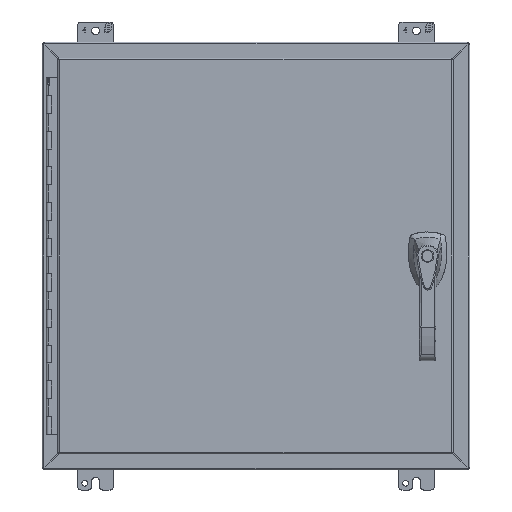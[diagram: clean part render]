
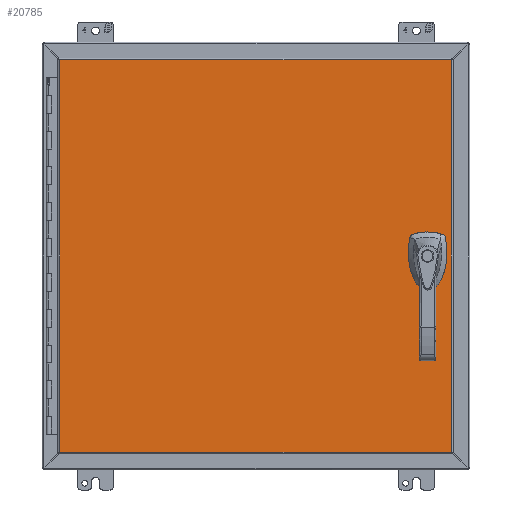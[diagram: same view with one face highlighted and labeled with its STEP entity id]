
A CAD part, front view. The second image highlights one B-rep face of the part: STEP entity #20785.
In plain terms, the highlighted planar face has unit normal (0, -1, 0).
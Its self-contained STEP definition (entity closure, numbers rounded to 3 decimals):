
#2318=CIRCLE('',#22225,4.242);
#2319=CIRCLE('',#22226,11.24);
#2320=CIRCLE('',#22227,11.24);
#2321=CIRCLE('',#22228,11.24);
#2322=CIRCLE('',#22229,11.24);
#4424=ORIENTED_EDGE('',*,*,#9436,.T.);
#4425=ORIENTED_EDGE('',*,*,#9437,.T.);
#4426=ORIENTED_EDGE('',*,*,#9438,.T.);
#4427=ORIENTED_EDGE('',*,*,#9439,.T.);
#4428=ORIENTED_EDGE('',*,*,#9440,.T.);
#4429=ORIENTED_EDGE('',*,*,#9441,.T.);
#4430=ORIENTED_EDGE('',*,*,#9442,.T.);
#4431=ORIENTED_EDGE('',*,*,#9443,.T.);
#4432=ORIENTED_EDGE('',*,*,#9444,.T.);
#4433=ORIENTED_EDGE('',*,*,#9445,.T.);
#4434=ORIENTED_EDGE('',*,*,#9446,.T.);
#4435=ORIENTED_EDGE('',*,*,#9447,.T.);
#4436=ORIENTED_EDGE('',*,*,#9448,.T.);
#9436=EDGE_CURVE('',#12055,#12055,#2318,.T.);
#9437=EDGE_CURVE('',#12056,#12057,#13993,.T.);
#9438=EDGE_CURVE('',#12057,#12058,#13994,.T.);
#9439=EDGE_CURVE('',#12058,#12059,#13995,.T.);
#9440=EDGE_CURVE('',#12059,#12056,#13996,.T.);
#9441=EDGE_CURVE('',#12060,#12061,#13997,.T.);
#9442=EDGE_CURVE('',#12061,#12062,#2319,.T.);
#9443=EDGE_CURVE('',#12062,#12063,#13998,.T.);
#9444=EDGE_CURVE('',#12063,#12064,#2320,.T.);
#9445=EDGE_CURVE('',#12064,#12065,#13999,.T.);
#9446=EDGE_CURVE('',#12065,#12066,#2321,.T.);
#9447=EDGE_CURVE('',#12066,#12067,#14000,.T.);
#9448=EDGE_CURVE('',#12067,#12060,#2322,.T.);
#12055=VERTEX_POINT('',#31715);
#12056=VERTEX_POINT('',#31717);
#12057=VERTEX_POINT('',#31718);
#12058=VERTEX_POINT('',#31720);
#12059=VERTEX_POINT('',#31722);
#12060=VERTEX_POINT('',#31725);
#12061=VERTEX_POINT('',#31726);
#12062=VERTEX_POINT('',#31728);
#12063=VERTEX_POINT('',#31730);
#12064=VERTEX_POINT('',#31732);
#12065=VERTEX_POINT('',#31734);
#12066=VERTEX_POINT('',#31736);
#12067=VERTEX_POINT('',#31738);
#13993=LINE('',#31716,#15826);
#13994=LINE('',#31719,#15827);
#13995=LINE('',#31721,#15828);
#13996=LINE('',#31723,#15829);
#13997=LINE('',#31724,#15830);
#13998=LINE('',#31729,#15831);
#13999=LINE('',#31733,#15832);
#14000=LINE('',#31737,#15833);
#15826=VECTOR('',#24899,1000.);
#15827=VECTOR('',#24900,1000.);
#15828=VECTOR('',#24901,1000.);
#15829=VECTOR('',#24902,1000.);
#15830=VECTOR('',#24903,1000.);
#15831=VECTOR('',#24906,1000.);
#15832=VECTOR('',#24909,1000.);
#15833=VECTOR('',#24912,1000.);
#17476=EDGE_LOOP('',(#4424));
#17477=EDGE_LOOP('',(#4425,#4426,#4427,#4428));
#17478=EDGE_LOOP('',(#4429,#4430,#4431,#4432,#4433,#4434,#4435,#4436));
#18804=FACE_BOUND('',#17476,.T.);
#18805=FACE_BOUND('',#17477,.T.);
#18806=FACE_BOUND('',#17478,.T.);
#19972=PLANE('',#22224);
#20785=ADVANCED_FACE('',(#18804,#18805,#18806),#19972,.T.);
#22224=AXIS2_PLACEMENT_3D('',#31713,#24895,#24896);
#22225=AXIS2_PLACEMENT_3D('',#31714,#24897,#24898);
#22226=AXIS2_PLACEMENT_3D('',#31727,#24904,#24905);
#22227=AXIS2_PLACEMENT_3D('',#31731,#24907,#24908);
#22228=AXIS2_PLACEMENT_3D('',#31735,#24910,#24911);
#22229=AXIS2_PLACEMENT_3D('',#31739,#24913,#24914);
#24895=DIRECTION('',(0.,-1.,0.));
#24896=DIRECTION('',(0.,0.,-1.));
#24897=DIRECTION('',(0.,1.,0.));
#24898=DIRECTION('',(1.,0.,0.));
#24899=DIRECTION('',(0.,0.,-1.));
#24900=DIRECTION('',(1.,0.,0.));
#24901=DIRECTION('',(0.,0.,1.));
#24902=DIRECTION('',(-1.,0.,0.));
#24903=DIRECTION('',(0.,0.,1.));
#24904=DIRECTION('',(0.,1.,0.));
#24905=DIRECTION('',(1.,0.,0.));
#24906=DIRECTION('',(1.,0.,0.));
#24907=DIRECTION('',(0.,1.,0.));
#24908=DIRECTION('',(1.,0.,0.));
#24909=DIRECTION('',(0.,0.,-1.));
#24910=DIRECTION('',(0.,1.,0.));
#24911=DIRECTION('',(1.,0.,0.));
#24912=DIRECTION('',(-1.,0.,0.));
#24913=DIRECTION('',(0.,1.,0.));
#24914=DIRECTION('',(1.,0.,0.));
#31713=CARTESIAN_POINT('',(-279.044,0.,-279.26));
#31714=CARTESIAN_POINT('',(245.262,0.,-33.985));
#31715=CARTESIAN_POINT('',(249.504,0.,-33.985));
#31716=CARTESIAN_POINT('',(-279.044,0.,279.26));
#31717=CARTESIAN_POINT('',(-279.044,0.,279.26));
#31718=CARTESIAN_POINT('',(-279.044,0.,-279.26));
#31719=CARTESIAN_POINT('',(-279.044,0.,-279.26));
#31720=CARTESIAN_POINT('',(279.044,0.,-279.26));
#31721=CARTESIAN_POINT('',(279.044,0.,-279.26));
#31722=CARTESIAN_POINT('',(279.044,0.,279.26));
#31723=CARTESIAN_POINT('',(279.044,0.,279.26));
#31724=CARTESIAN_POINT('',(235.217,0.,-5.041));
#31725=CARTESIAN_POINT('',(235.217,0.,-5.041));
#31726=CARTESIAN_POINT('',(235.217,0.,5.041));
#31727=CARTESIAN_POINT('',(245.262,0.,0.));
#31728=CARTESIAN_POINT('',(240.222,0.,10.046));
#31729=CARTESIAN_POINT('',(240.222,0.,10.046));
#31730=CARTESIAN_POINT('',(250.303,0.,10.046));
#31731=CARTESIAN_POINT('',(245.262,0.,0.));
#31732=CARTESIAN_POINT('',(255.308,0.,5.041));
#31733=CARTESIAN_POINT('',(255.308,0.,5.041));
#31734=CARTESIAN_POINT('',(255.308,0.,-5.041));
#31735=CARTESIAN_POINT('',(245.262,0.,0.));
#31736=CARTESIAN_POINT('',(250.303,0.,-10.046));
#31737=CARTESIAN_POINT('',(250.303,0.,-10.046));
#31738=CARTESIAN_POINT('',(240.222,0.,-10.046));
#31739=CARTESIAN_POINT('',(245.262,0.,0.));
